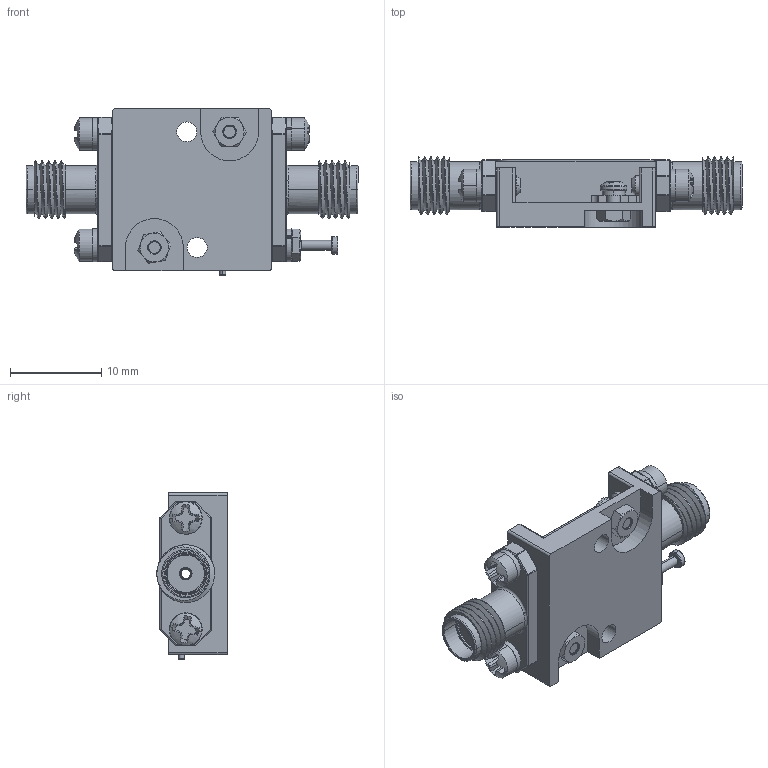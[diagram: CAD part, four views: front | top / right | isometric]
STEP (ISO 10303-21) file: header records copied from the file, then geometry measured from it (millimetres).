
FILE_DESCRIPTION (( 'STEP AP214' ), '1' );
FILE_NAME ('QSM-112-16-1D5-SFF.STEP', '2026-03-12T12:45:45', ( '' ), ( '' ), 'SwSTEP 2.0', 'SolidWorks 2025', '' );
FILE_SCHEMA (( 'AUTOMOTIVE_DESIGN' ));
Length unit declared in the file: inch
Products named in the file (1): QSM-112-16-1D5-SFF
Bounding box: 36.45 x 7.72 x 18.29 mm (x, y, z)
Surface area: 2733.2 mm2 (no closed solid volume)
Topology: 0 solids, 30 shells, 729 faces, 2687 edges, 2065 vertices
Faces by surface type: plane 336, cylinder 195, cone 66, torus 61, sphere 51, bspline 20
Entity records: 43895 total; most frequent: CARTESIAN_POINT 11807, ORIENTED_EDGE 4999, DIRECTION 4459, EDGE_CURVE 2652, VERTEX_POINT 2065, AXIS2_PLACEMENT_3D 1586, LINE 1287, VECTOR 1287
